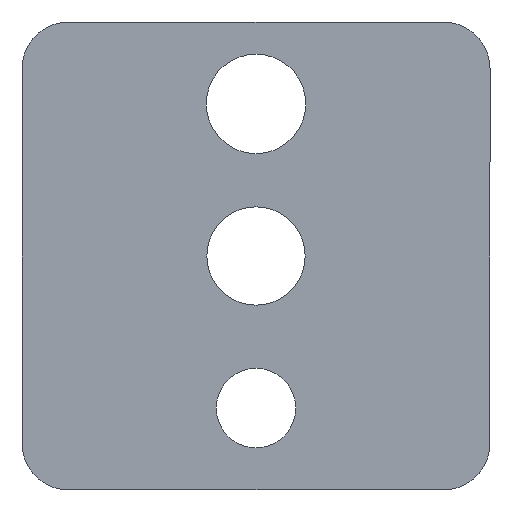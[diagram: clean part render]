
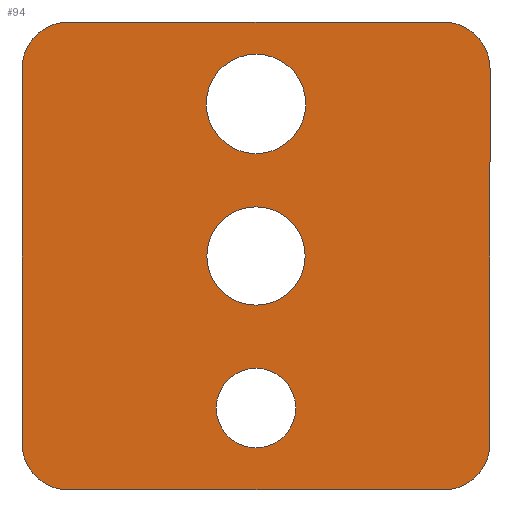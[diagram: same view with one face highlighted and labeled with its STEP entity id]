
A CAD part, front view. The second image highlights one B-rep face of the part: STEP entity #94.
In plain terms, the highlighted planar face has unit normal (0, -1, 0).
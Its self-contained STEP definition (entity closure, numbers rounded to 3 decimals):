
#5 = ORIENTED_EDGE ( 'NONE', *, *, #183, .T. ) ;
#8 = CARTESIAN_POINT ( 'NONE',  ( -16., 0., 16. ) ) ;
#11 = DIRECTION ( 'NONE',  ( 0., -1., 0. ) ) ;
#14 = CIRCLE ( 'NONE', #456, 4. ) ;
#31 = CARTESIAN_POINT ( 'NONE',  ( 20., 0., -20. ) ) ;
#50 = LINE ( 'NONE', #238, #308 ) ;
#53 = VERTEX_POINT ( 'NONE', #166 ) ;
#54 = EDGE_CURVE ( 'NONE', #334, #553, #285, .T. ) ;
#56 = FACE_BOUND ( 'NONE', #626, .T. ) ;
#58 = AXIS2_PLACEMENT_3D ( 'NONE', #582, #288, #162 ) ;
#68 = CARTESIAN_POINT ( 'NONE',  ( 16., 0., 16. ) ) ;
#70 = CIRCLE ( 'NONE', #103, 4.25 ) ;
#78 = DIRECTION ( 'NONE',  ( 1., 0., 0. ) ) ;
#88 = DIRECTION ( 'NONE',  ( 0., 0., -1. ) ) ;
#94 = ADVANCED_FACE ( 'NONE', ( #552, #181, #56, #718 ), #412, .T. ) ;
#101 = ORIENTED_EDGE ( 'NONE', *, *, #125, .T. ) ;
#103 = AXIS2_PLACEMENT_3D ( 'NONE', #653, #113, #668 ) ;
#107 = CARTESIAN_POINT ( 'NONE',  ( -20., 0., -16. ) ) ;
#113 = DIRECTION ( 'NONE',  ( 0., 1., 0. ) ) ;
#120 = DIRECTION ( 'NONE',  ( 0., -1., 0. ) ) ;
#125 = EDGE_CURVE ( 'NONE', #350, #350, #70, .T. ) ;
#126 = ORIENTED_EDGE ( 'NONE', *, *, #54, .T. ) ;
#131 = VERTEX_POINT ( 'NONE', #352 ) ;
#150 = VERTEX_POINT ( 'NONE', #630 ) ;
#157 = DIRECTION ( 'NONE',  ( 0., 1., 0. ) ) ;
#159 = EDGE_CURVE ( 'NONE', #334, #643, #365, .T. ) ;
#162 = DIRECTION ( 'NONE',  ( 0., 0., -1. ) ) ;
#166 = CARTESIAN_POINT ( 'NONE',  ( 0., 0., 4.2 ) ) ;
#181 = FACE_BOUND ( 'NONE', #712, .T. ) ;
#183 = EDGE_CURVE ( 'NONE', #471, #471, #227, .T. ) ;
#188 = DIRECTION ( 'NONE',  ( 0., -1., 0. ) ) ;
#199 = CARTESIAN_POINT ( 'NONE',  ( 20., 0., 20. ) ) ;
#205 = AXIS2_PLACEMENT_3D ( 'NONE', #682, #157, #635 ) ;
#221 = CIRCLE ( 'NONE', #205, 4.2 ) ;
#227 = CIRCLE ( 'NONE', #415, 3.4 ) ;
#235 = ORIENTED_EDGE ( 'NONE', *, *, #159, .F. ) ;
#238 = CARTESIAN_POINT ( 'NONE',  ( 20., 0., -20. ) ) ;
#246 = DIRECTION ( 'NONE',  ( 0., 0., -1. ) ) ;
#256 = CARTESIAN_POINT ( 'NONE',  ( 16., 0., 20. ) ) ;
#264 = EDGE_CURVE ( 'NONE', #497, #643, #546, .T. ) ;
#272 = CARTESIAN_POINT ( 'NONE',  ( 20., 0., -16. ) ) ;
#285 = CIRCLE ( 'NONE', #658, 4. ) ;
#288 = DIRECTION ( 'NONE',  ( 0., -1., 0. ) ) ;
#290 = VECTOR ( 'NONE', #374, 1000. ) ;
#291 = DIRECTION ( 'NONE',  ( -1., 0., 0. ) ) ;
#298 = ORIENTED_EDGE ( 'NONE', *, *, #264, .T. ) ;
#308 = VECTOR ( 'NONE', #291, 1000. ) ;
#334 = VERTEX_POINT ( 'NONE', #345 ) ;
#345 = CARTESIAN_POINT ( 'NONE',  ( 20., 0., 16. ) ) ;
#349 = DIRECTION ( 'NONE',  ( 0., 0., -1. ) ) ;
#350 = VERTEX_POINT ( 'NONE', #521 ) ;
#351 = VECTOR ( 'NONE', #88, 1000. ) ;
#352 = CARTESIAN_POINT ( 'NONE',  ( -16., 0., 20. ) ) ;
#357 = DIRECTION ( 'NONE',  ( 0., -1., 0. ) ) ;
#358 = CARTESIAN_POINT ( 'NONE',  ( -16., 0., -16. ) ) ;
#365 = LINE ( 'NONE', #31, #351 ) ;
#370 = VERTEX_POINT ( 'NONE', #666 ) ;
#374 = DIRECTION ( 'NONE',  ( 0., 0., 1. ) ) ;
#379 = LINE ( 'NONE', #502, #290 ) ;
#380 = EDGE_CURVE ( 'NONE', #131, #150, #14, .T. ) ;
#383 = DIRECTION ( 'NONE',  ( 0., 1., 0. ) ) ;
#412 = PLANE ( 'NONE',  #481 ) ;
#415 = AXIS2_PLACEMENT_3D ( 'NONE', #558, #383, #427 ) ;
#427 = DIRECTION ( 'NONE',  ( 0., 0., 1. ) ) ;
#434 = DIRECTION ( 'NONE',  ( 0., 0., -1. ) ) ;
#452 = ORIENTED_EDGE ( 'NONE', *, *, #674, .T. ) ;
#456 = AXIS2_PLACEMENT_3D ( 'NONE', #8, #120, #711 ) ;
#459 = ORIENTED_EDGE ( 'NONE', *, *, #490, .F. ) ;
#462 = CIRCLE ( 'NONE', #618, 4. ) ;
#468 = EDGE_CURVE ( 'NONE', #131, #553, #616, .T. ) ;
#471 = VERTEX_POINT ( 'NONE', #709 ) ;
#481 = AXIS2_PLACEMENT_3D ( 'NONE', #731, #357, #246 ) ;
#486 = VERTEX_POINT ( 'NONE', #107 ) ;
#490 = EDGE_CURVE ( 'NONE', #497, #370, #50, .T. ) ;
#497 = VERTEX_POINT ( 'NONE', #531 ) ;
#501 = ORIENTED_EDGE ( 'NONE', *, *, #380, .T. ) ;
#502 = CARTESIAN_POINT ( 'NONE',  ( -20., 0., -20. ) ) ;
#521 = CARTESIAN_POINT ( 'NONE',  ( 0., 0., 17.25 ) ) ;
#531 = CARTESIAN_POINT ( 'NONE',  ( 16., 0., -20. ) ) ;
#542 = EDGE_CURVE ( 'NONE', #486, #370, #462, .T. ) ;
#546 = CIRCLE ( 'NONE', #58, 4. ) ;
#552 = FACE_BOUND ( 'NONE', #702, .T. ) ;
#553 = VERTEX_POINT ( 'NONE', #256 ) ;
#558 = CARTESIAN_POINT ( 'NONE',  ( 0., 0., -13. ) ) ;
#582 = CARTESIAN_POINT ( 'NONE',  ( 16., 0., -16. ) ) ;
#609 = ORIENTED_EDGE ( 'NONE', *, *, #468, .F. ) ;
#616 = LINE ( 'NONE', #199, #742 ) ;
#618 = AXIS2_PLACEMENT_3D ( 'NONE', #358, #11, #434 ) ;
#626 = EDGE_LOOP ( 'NONE', ( #452 ) ) ;
#630 = CARTESIAN_POINT ( 'NONE',  ( -20., 0., 16. ) ) ;
#631 = ORIENTED_EDGE ( 'NONE', *, *, #713, .F. ) ;
#635 = DIRECTION ( 'NONE',  ( 0., 0., 1. ) ) ;
#643 = VERTEX_POINT ( 'NONE', #272 ) ;
#644 = EDGE_LOOP ( 'NONE', ( #631, #706, #459, #298, #235, #126, #609, #501 ) ) ;
#653 = CARTESIAN_POINT ( 'NONE',  ( 0., 0., 13. ) ) ;
#658 = AXIS2_PLACEMENT_3D ( 'NONE', #68, #188, #349 ) ;
#666 = CARTESIAN_POINT ( 'NONE',  ( -16., 0., -20. ) ) ;
#668 = DIRECTION ( 'NONE',  ( 0., 0., 1. ) ) ;
#674 = EDGE_CURVE ( 'NONE', #53, #53, #221, .T. ) ;
#682 = CARTESIAN_POINT ( 'NONE',  ( 0., 0., 0. ) ) ;
#702 = EDGE_LOOP ( 'NONE', ( #5 ) ) ;
#706 = ORIENTED_EDGE ( 'NONE', *, *, #542, .T. ) ;
#709 = CARTESIAN_POINT ( 'NONE',  ( 0., 0., -9.6 ) ) ;
#711 = DIRECTION ( 'NONE',  ( 0., 0., -1. ) ) ;
#712 = EDGE_LOOP ( 'NONE', ( #101 ) ) ;
#713 = EDGE_CURVE ( 'NONE', #486, #150, #379, .T. ) ;
#718 = FACE_OUTER_BOUND ( 'NONE', #644, .T. ) ;
#731 = CARTESIAN_POINT ( 'NONE',  ( 0., 0., 0. ) ) ;
#742 = VECTOR ( 'NONE', #78, 1000. ) ;
